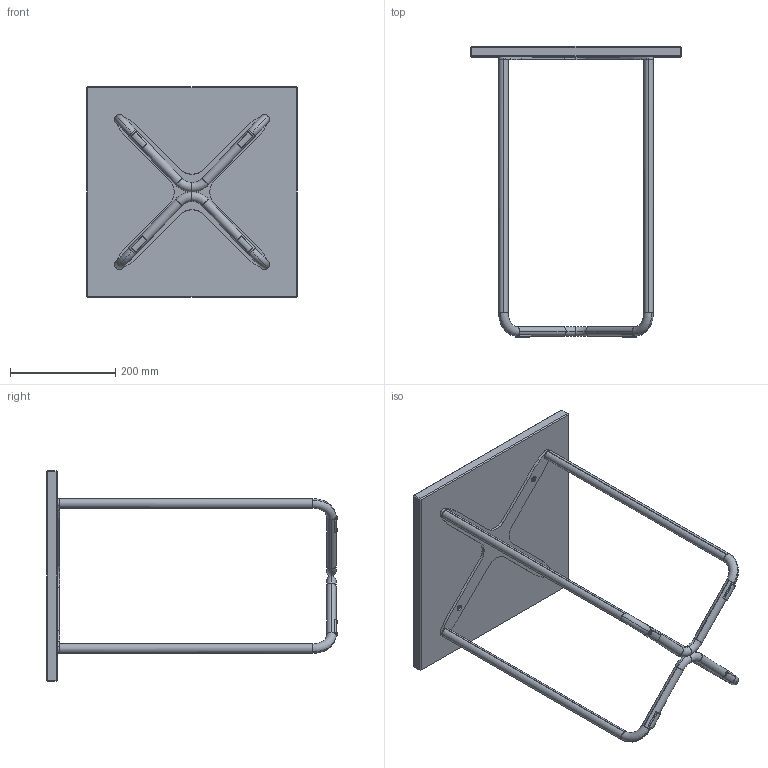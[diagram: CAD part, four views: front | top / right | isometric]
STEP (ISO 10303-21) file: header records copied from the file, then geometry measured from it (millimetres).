
FILE_DESCRIPTION (( 'STEP AP214' ), '1' );
FILE_NAME ('Quattro CT 55.STEP', '2021-09-13T10:28:37', ( '' ), ( '' ), 'SwSTEP 2.0', 'SolidWorks 2020', '' );
FILE_SCHEMA (( 'AUTOMOTIVE_DESIGN' ));
Length unit declared in the file: millimetre
Products named in the file (4): Quattro CT 55; MN0330021BK; BS51851-01-00; RI51851-01-00
Assembly tree (6 placements, depth 2):
  Quattro CT 55
    BS51851-01-00
    RI51851-01-00
    MN0330021BK  x4
Bounding box: 400 x 552.78 x 400 mm (x, y, z)
Volume: 3643546.4 mm3; surface area: 749795.4 mm2
Topology: 9 solids, 9 shells, 344 faces, 834 edges, 512 vertices
Faces by surface type: cylinder 142, plane 90, cone 56, torus 40, bspline 16
Entity records: 9229 total; most frequent: CARTESIAN_POINT 2635, DIRECTION 1426, ORIENTED_EDGE 1292, EDGE_CURVE 646, AXIS2_PLACEMENT_3D 563, VERTEX_POINT 404, EDGE_LOOP 302, VECTOR 300
